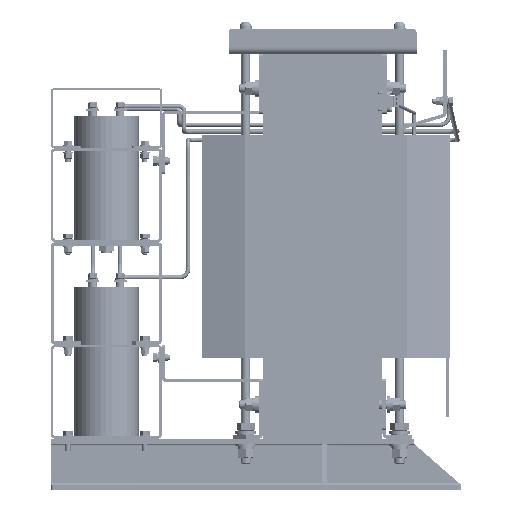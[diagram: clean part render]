
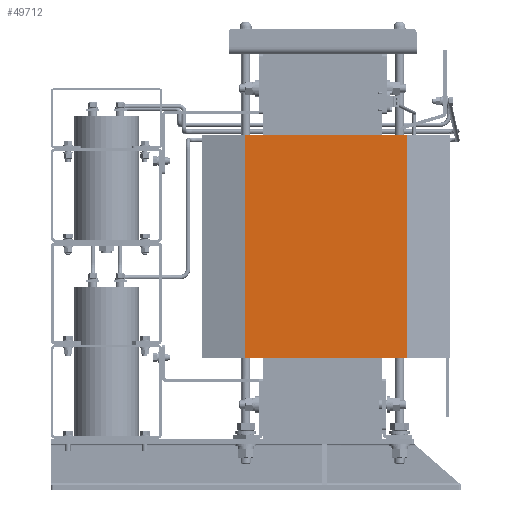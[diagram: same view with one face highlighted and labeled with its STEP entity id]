
A CAD part, left-side view. The second image highlights one B-rep face of the part: STEP entity #49712.
In plain terms, the highlighted planar face has unit normal (-1, 0, 0).
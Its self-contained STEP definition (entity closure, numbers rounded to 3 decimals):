
#49712=ADVANCED_FACE('',(#102774),#102776,.T.);
#102774=FACE_BOUND('',#102775,.T.);
#102775=EDGE_LOOP('',(#125036,#125037,#125038,#125039));
#102776=PLANE('',#102777);
#102777=AXIS2_PLACEMENT_3D('',#102778,#102779,#102780);
#102778=CARTESIAN_POINT('',(-79.5,-130.,-91.));
#102779=DIRECTION('',(-1.,0.,0.));
#102780=DIRECTION('',(0.,0.,1.));
#125036=ORIENTED_EDGE('',*,*,#136201,.F.);
#125037=ORIENTED_EDGE('',*,*,#136202,.F.);
#125038=ORIENTED_EDGE('',*,*,#136203,.T.);
#125039=ORIENTED_EDGE('',*,*,#136199,.T.);
#136199=EDGE_CURVE('',#155025,#155023,#155026,.T.);
#136201=EDGE_CURVE('',#155028,#155023,#155029,.T.);
#136202=EDGE_CURVE('',#155030,#155028,#155031,.T.);
#136203=EDGE_CURVE('',#155030,#155025,#155032,.T.);
#155023=VERTEX_POINT('',#253219);
#155025=VERTEX_POINT('',#253223);
#155026=LINE('',#253224,#253225);
#155028=VERTEX_POINT('',#253230);
#155029=LINE('',#253231,#253232);
#155030=VERTEX_POINT('',#253234);
#155031=LINE('',#253235,#253236);
#155032=LINE('',#253238,#253239);
#253219=CARTESIAN_POINT('',(-79.5,130.,99.));
#253223=CARTESIAN_POINT('',(-79.5,-130.,99.));
#253224=CARTESIAN_POINT('',(-79.5,-130.,99.));
#253225=VECTOR('',#253226,1.);
#253226=DIRECTION('',(0.,1.,0.));
#253230=CARTESIAN_POINT('',(-79.5,130.,-91.));
#253231=CARTESIAN_POINT('',(-79.5,130.,-91.));
#253232=VECTOR('',#253233,1.);
#253233=DIRECTION('',(0.,0.,1.));
#253234=CARTESIAN_POINT('',(-79.5,-130.,-91.));
#253235=CARTESIAN_POINT('',(-79.5,-130.,-91.));
#253236=VECTOR('',#253237,1.);
#253237=DIRECTION('',(0.,1.,0.));
#253238=CARTESIAN_POINT('',(-79.5,-130.,-91.));
#253239=VECTOR('',#253240,1.);
#253240=DIRECTION('',(0.,0.,1.));
